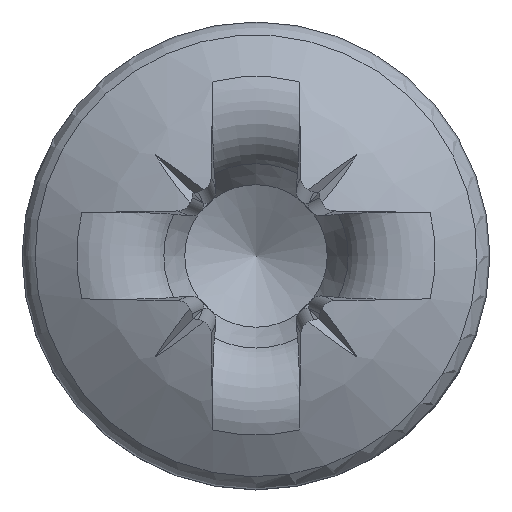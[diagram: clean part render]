
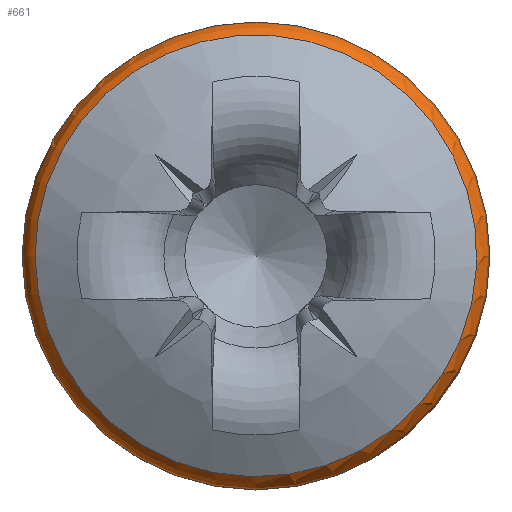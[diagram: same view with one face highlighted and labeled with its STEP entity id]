
A CAD part, top view. The second image highlights one B-rep face of the part: STEP entity #661.
In plain terms, the highlighted toroidal (fillet/blend) face has major radius 1.907 mm and minor radius 0.293 mm.
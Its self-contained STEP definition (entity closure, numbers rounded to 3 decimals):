
#661=ADVANCED_FACE('',(#1000,#1001),#774,.T.);
#774=TOROIDAL_SURFACE('',#2737,1.907,0.293);
#1000=FACE_BOUND('',#1061,.T.);
#1001=FACE_BOUND('',#1062,.T.);
#1061=EDGE_LOOP('',(#1479));
#1062=EDGE_LOOP('',(#1480));
#1479=ORIENTED_EDGE('',*,*,#2306,.F.);
#1480=ORIENTED_EDGE('',*,*,#2265,.F.);
#2017=VERTEX_POINT('',#6063);
#2056=VERTEX_POINT('',#6328);
#2265=EDGE_CURVE('',#2017,#2017,#2599,.T.);
#2306=EDGE_CURVE('',#2056,#2056,#2624,.T.);
#2599=CIRCLE('',#2642,2.078);
#2624=CIRCLE('',#2672,2.2);
#2642=AXIS2_PLACEMENT_3D('',#6062,#2756,#2757);
#2672=AXIS2_PLACEMENT_3D('',#6327,#2817,#2818);
#2737=AXIS2_PLACEMENT_3D('',#6791,#2979,#2980);
#2756=DIRECTION('',(0.,0.,1.));
#2757=DIRECTION('',(-1.,0.,0.));
#2817=DIRECTION('',(0.,0.,-1.));
#2818=DIRECTION('',(-1.,0.,0.));
#2979=DIRECTION('',(0.,0.,-1.));
#2980=DIRECTION('',(-1.,0.,0.));
#6062=CARTESIAN_POINT('',(0.,0.,1.232));
#6063=CARTESIAN_POINT('',(-2.078,0.,1.232));
#6327=CARTESIAN_POINT('',(0.,0.,0.993));
#6328=CARTESIAN_POINT('',(-2.2,0.,0.993));
#6791=CARTESIAN_POINT('',(0.,0.,0.993));
